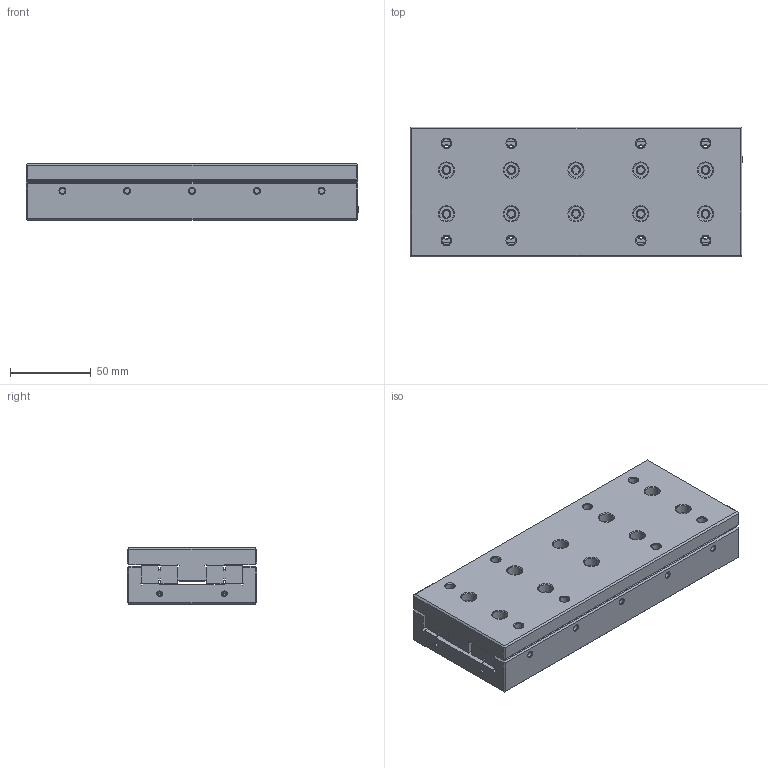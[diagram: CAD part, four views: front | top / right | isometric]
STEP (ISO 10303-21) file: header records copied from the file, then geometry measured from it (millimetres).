
FILE_DESCRIPTION((''),'2;1');
FILE_NAME('CRU4205_ASM','2017-01-24T',('Administrator'),(''),'PRO/ENGINEER BY PARAMETRIC TECHNOLOGY CORPORATION, 2013150','PRO/ENGINEER BY PARAMETRIC TECHNOLOGY CORPORATION, 2013150','');
FILE_SCHEMA(('CONFIG_CONTROL_DESIGN'));
Length unit declared in the file: millimetre
Products named in the file (4): CRU4205-01; CRU4205-GV4200; CRU4205-02; CRU4205_ASM
Assembly tree (4 placements, depth 2):
  CRU4205_ASM
    CRU4205-01
    CRU4205-GV4200  x2
    CRU4205-02
Bounding box: 205 x 80 x 35 mm (x, y, z)
Volume: 519212.3 mm3; surface area: 138599.9 mm2
Topology: 4 solids, 4 shells, 643 faces, 1524 edges, 925 vertices
Faces by surface type: cone 250, cylinder 234, plane 159
Entity records: 15766 total; most frequent: DIRECTION 2950, CARTESIAN_POINT 2610, ORIENTED_EDGE 2544, EDGE_CURVE 1272, AXIS2_PLACEMENT_3D 1141, VERTEX_POINT 777, EDGE_LOOP 679, VECTOR 668
